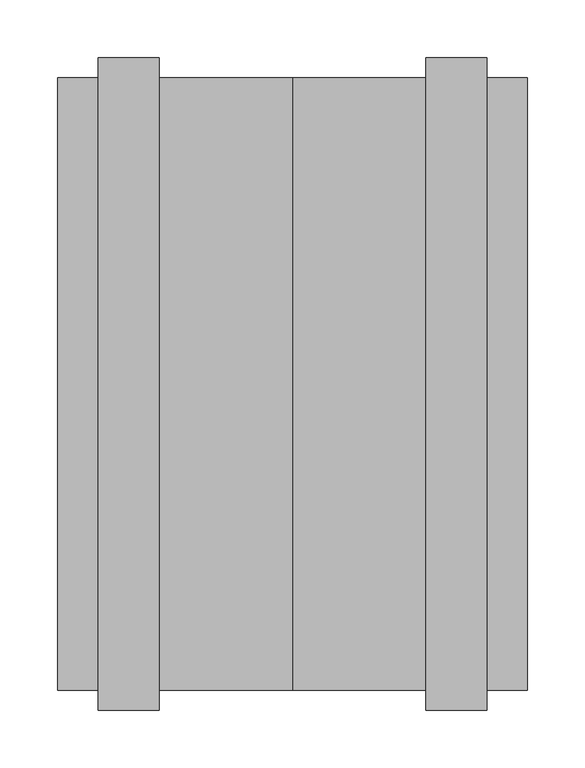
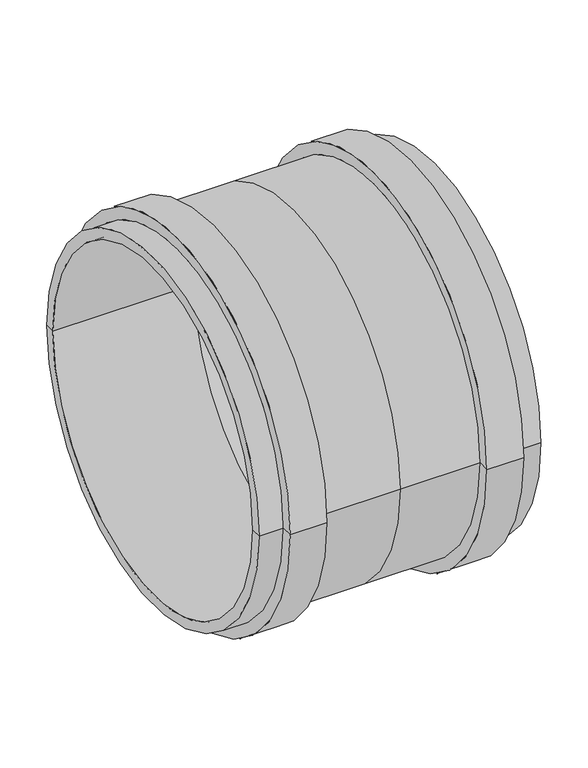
"""IFC4 building model written with IfcOpenShell, lengths in millimetres: pipe fitting geometry, OSMA_KG2000_PPKGMM : Spojka dvouhrdlá."""

from ifc_helpers import new_model, si_unit, frame, origin, place, context, project, spatial, polyline, circle_curve, source, transform, mapped, element, save
from ifc_brep_helpers import plane_surface, cylinder_surface, revolved_surface, advanced_brep


def pipe_fitting_2579c0c1(model_context):
    return source(origin(), model_context, "Body", "AdvancedBrep", [
        advanced_brep(
        [(-203.5, -250.0, 0.0), (-203.5, 250.0, 0.0), (-203.5, 265.3, 0.0), (-203.5, -265.3, 0.0), (-115.5, -282.5, 0.0), (-115.5, 282.5, 0.0), (-115.5, 265.3, 0.0), (-115.5, -265.3, 0.0), (-168.5, -282.5, 0.0), (-168.5, 282.5, 0.0), (-168.5, -265.3, 0.0), (-168.5, 265.3, 0.0), (0.0, 265.3, 0.0), (0.0, -265.3, 0.0), (168.5, -282.5, 0.0), (168.5, 282.5, 0.0), (168.5, 265.3, 0.0), (168.5, -265.3, 0.0), (115.5, -282.5, 0.0), (115.5, 282.5, 0.0), (115.5, -265.3, 0.0), (115.5, 265.3, 0.0), (203.5, 265.3, 0.0), (203.5, -265.3, 0.0), (203.5, 250.0, 0.0), (203.5, -250.0, 0.0), (0.0, -250.0, 0.0), (0.0, 250.0, 0.0)],
        [
            (0, 1, circle_curve(frame((-203.5, 0.0, 0.0), z_axis=(1.0, 0.0, 0.0), x_axis=(0.0, 1.0, 0.0)), 250.0)),
            (1, 2),
            (2, 3, circle_curve(frame((-203.5, 0.0, 0.0), z_axis=(-1.0, 0.0, 0.0), x_axis=(0.0, 1.0, 0.0)), 265.3)),
            (3, 0),
            (1, 0, circle_curve(frame((-203.5, 0.0, 0.0), z_axis=(1.0, 0.0, 0.0), x_axis=(0.0, 1.0, 0.0)), 250.0)),
            (3, 2, circle_curve(frame((-203.5, 0.0, 0.0), z_axis=(-1.0, 0.0, 0.0), x_axis=(0.0, 1.0, 0.0)), 265.3)),
            (4, 5, circle_curve(frame((-115.5, 0.0, 0.0), z_axis=(1.0, 0.0, 0.0), x_axis=(0.0, 1.0, 0.0)), 282.5)),
            (5, 6),
            (6, 7, circle_curve(frame((-115.5, 0.0, 0.0), z_axis=(-1.0, 0.0, 0.0), x_axis=(0.0, 1.0, 0.0)), 265.3)),
            (7, 4),
            (5, 4, circle_curve(frame((-115.5, 0.0, 0.0), z_axis=(1.0, 0.0, 0.0), x_axis=(0.0, 1.0, 0.0)), 282.5)),
            (7, 6, circle_curve(frame((-115.5, 0.0, 0.0), z_axis=(-1.0, 0.0, 0.0), x_axis=(0.0, 1.0, 0.0)), 265.3)),
            (4, 8),
            (8, 9, circle_curve(frame((-168.5, 0.0, 0.0), z_axis=(1.0, 0.0, 0.0), x_axis=(0.0, 1.0, 0.0)), 282.5)),
            (9, 5),
            (9, 8, circle_curve(frame((-168.5, 0.0, 0.0), z_axis=(1.0, 0.0, 0.0), x_axis=(0.0, 1.0, 0.0)), 282.5)),
            (8, 10),
            (10, 11, circle_curve(frame((-168.5, 0.0, 0.0), z_axis=(1.0, 0.0, 0.0), x_axis=(0.0, 1.0, 0.0)), 265.3)),
            (11, 9),
            (11, 10, circle_curve(frame((-168.5, 0.0, 0.0), z_axis=(1.0, 0.0, 0.0), x_axis=(0.0, 1.0, 0.0)), 265.3)),
            (2, 11),
            (10, 3),
            (6, 12),
            (12, 13, circle_curve(frame((0.0, 0.0, 0.0), z_axis=(-1.0, 0.0, 0.0), x_axis=(0.0, 1.0, 0.0)), 265.3)),
            (13, 7),
            (13, 12, circle_curve(frame((0.0, 0.0, 0.0), z_axis=(-1.0, 0.0, 0.0), x_axis=(0.0, 1.0, 0.0)), 265.3)),
            (14, 15, circle_curve(frame((168.5, 0.0, 0.0), z_axis=(1.0, 0.0, 0.0), x_axis=(0.0, 1.0, 0.0)), 282.5)),
            (15, 16),
            (16, 17, circle_curve(frame((168.5, 0.0, 0.0), z_axis=(-1.0, 0.0, 0.0), x_axis=(0.0, 1.0, 0.0)), 265.3)),
            (17, 14),
            (15, 14, circle_curve(frame((168.5, 0.0, 0.0), z_axis=(1.0, 0.0, 0.0), x_axis=(0.0, 1.0, 0.0)), 282.5)),
            (17, 16, circle_curve(frame((168.5, 0.0, 0.0), z_axis=(-1.0, 0.0, 0.0), x_axis=(0.0, 1.0, 0.0)), 265.3)),
            (14, 18),
            (18, 19, circle_curve(frame((115.5, 0.0, 0.0), z_axis=(1.0, 0.0, 0.0), x_axis=(0.0, 1.0, 0.0)), 282.5)),
            (19, 15),
            (19, 18, circle_curve(frame((115.5, 0.0, 0.0), z_axis=(1.0, 0.0, 0.0), x_axis=(0.0, 1.0, 0.0)), 282.5)),
            (18, 20),
            (20, 21, circle_curve(frame((115.5, 0.0, 0.0), z_axis=(1.0, 0.0, 0.0), x_axis=(0.0, 1.0, 0.0)), 265.3)),
            (21, 19),
            (21, 20, circle_curve(frame((115.5, 0.0, 0.0), z_axis=(1.0, 0.0, 0.0), x_axis=(0.0, 1.0, 0.0)), 265.3)),
            (20, 13),
            (12, 21),
            (16, 22),
            (22, 23, circle_curve(frame((203.5, 0.0, 0.0), z_axis=(-1.0, 0.0, 0.0), x_axis=(0.0, 1.0, 0.0)), 265.3)),
            (23, 17),
            (23, 22, circle_curve(frame((203.5, 0.0, 0.0), z_axis=(-1.0, 0.0, 0.0), x_axis=(0.0, 1.0, 0.0)), 265.3)),
            (22, 24),
            (24, 25, circle_curve(frame((203.5, 0.0, 0.0), z_axis=(-1.0, 0.0, 0.0), x_axis=(0.0, 1.0, 0.0)), 250.0)),
            (25, 23),
            (25, 24, circle_curve(frame((203.5, 0.0, 0.0), z_axis=(-1.0, 0.0, 0.0), x_axis=(0.0, 1.0, 0.0)), 250.0)),
            (0, 26),
            (26, 27, circle_curve(frame((0.0, 0.0, 0.0), z_axis=(1.0, 0.0, 0.0), x_axis=(0.0, 1.0, 0.0)), 250.0)),
            (27, 1),
            (27, 26, circle_curve(frame((0.0, 0.0, 0.0), z_axis=(1.0, 0.0, 0.0), x_axis=(0.0, 1.0, 0.0)), 250.0)),
            (24, 27),
            (26, 25),
        ],
        [
            plane_surface(frame((-203.5, 0.0, 0.0), z_axis=(-1.0, 0.0, 0.0), x_axis=(0.0, 1.0, 0.0))),
            plane_surface(frame((-115.5, 0.0, 0.0), z_axis=(1.0, 0.0, 0.0), x_axis=(0.0, 1.0, 0.0))),
            cylinder_surface(frame((404.0, 0.0, 0.0), z_axis=(-1.0, 0.0, 0.0), x_axis=(0.0, 1.0, 0.0)), 282.5),
            plane_surface(frame((-168.5, 0.0, 0.0), z_axis=(-1.0, 0.0, 0.0), x_axis=(0.0, 1.0, 0.0))),
            cylinder_surface(frame((404.0, 0.0, 0.0), z_axis=(-1.0, 0.0, 0.0), x_axis=(0.0, 1.0, 0.0)), 265.3),
            plane_surface(frame((168.5, 0.0, 0.0), z_axis=(1.0, 0.0, 0.0), x_axis=(0.0, 1.0, 0.0))),
            plane_surface(frame((115.5, 0.0, 0.0), z_axis=(-1.0, 0.0, 0.0), x_axis=(0.0, 1.0, 0.0))),
            plane_surface(frame((203.5, 0.0, 0.0), z_axis=(1.0, 0.0, 0.0), x_axis=(0.0, 1.0, 0.0))),
            revolved_surface(polyline([(-203.5, 250.0, 0.0), (0.0, 250.0, 0.0)]), (404.0, 0.0, 0.0), (-1.0, 0.0, 0.0)),
            revolved_surface(polyline([(0.0, 250.0, 0.0), (203.5, 250.0, 0.0)]), (404.0, 0.0, 0.0), (-1.0, 0.0, 0.0)),
        ],
        [
            (0, [[1, 2, 3, 4]]),
            (0, [[-2, 5, -4, 6]]),
            (1, [[7, 8, 9, 10]]),
            (1, [[-8, 11, -10, 12]]),
            (2, [[-7, 13, 14, 15]]),
            (2, [[-11, -15, 16, -13]]),
            (3, [[-14, 17, 18, 19]]),
            (3, [[-16, -19, 20, -17]]),
            (4, [[-3, 21, -18, 22]]),
            (4, [[-6, -22, -20, -21]]),
            (4, [[-9, 23, 24, 25]]),
            (4, [[-12, -25, 26, -23]]),
            (5, [[27, 28, 29, 30]]),
            (5, [[-28, 31, -30, 32]]),
            (2, [[-27, 33, 34, 35]]),
            (2, [[-31, -35, 36, -33]]),
            (6, [[-34, 37, 38, 39]]),
            (6, [[-36, -39, 40, -37]]),
            (4, [[-38, 41, -24, 42]]),
            (4, [[-40, -42, -26, -41]]),
            (4, [[-29, 43, 44, 45]]),
            (4, [[-32, -45, 46, -43]]),
            (7, [[-44, 47, 48, 49]]),
            (7, [[-46, -49, 50, -47]]),
            (8, [[-1, 51, 52, 53]]),
            (8, [[-5, -53, 54, -51]]),
            (9, [[-48, 55, -52, 56]]),
            (9, [[-50, -56, -54, -55]]),
        ],
    ),
    ])


if __name__ == "__main__":
    model = new_model("IFC4")
    model_context = context("Model", 3, world=origin())
    ifc_project = project(units=[si_unit("LENGTHUNIT", "METRE", prefix="MILLI")], contexts=[model_context])
    site = spatial("IfcSite", under=ifc_project)
    building = spatial("IfcBuilding", under=site)
    placement = place(None, origin())
    pipe_fitting_shape = pipe_fitting_2579c0c1(model_context)
    element("IfcPipeFitting", 1, ObjectType="OSMA_KG2000_PPKGMM : Spojka dvouhrdlá", at=placement, inside=building, context=model_context, shape_type="MappedRepresentation", body=[
        mapped(pipe_fitting_shape, transform((0.0, 0.0, 0.0), x_axis=(1.0, 0.0, 0.0), y_axis=(0.0, 1.0, 0.0), z_axis=(0.0, 0.0, 1.0))),
    ])
    save(model, "model.ifc")
